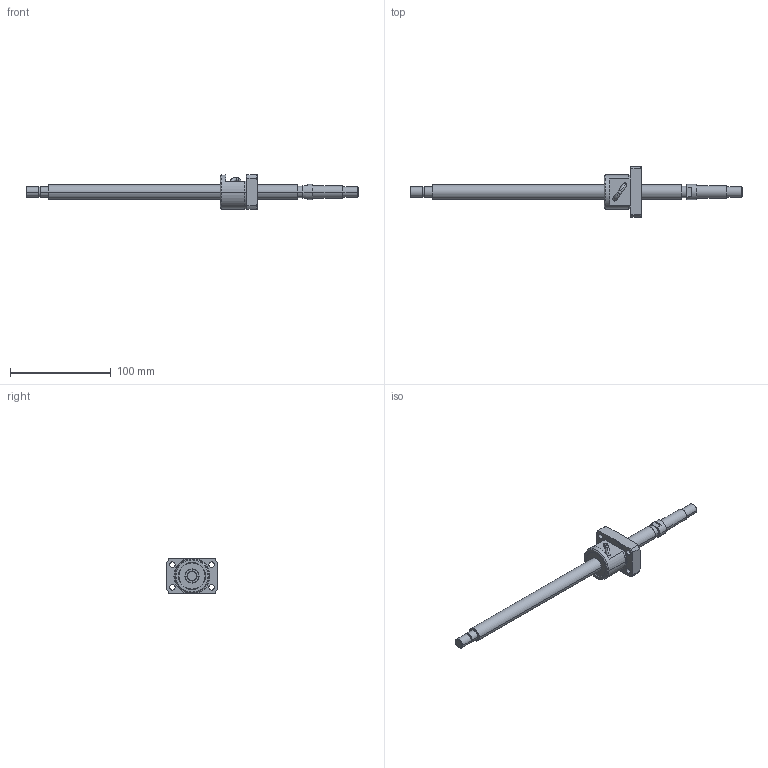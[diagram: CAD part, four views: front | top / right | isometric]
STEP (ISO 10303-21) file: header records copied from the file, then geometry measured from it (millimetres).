
FILE_DESCRIPTION (( 'STEP AP214' ), '1' );
FILE_NAME ('BS1404A-3D.STEP', '2014-03-05T14:45:40', ( '' ), ( '' ), 'SwSTEP 2.0', 'SolidWorks 2012', '' );
FILE_SCHEMA (( 'AUTOMOTIVE_DESIGN' ));
Length unit declared in the file: millimetre
Products named in the file (3): BS1404Aナット; BS1404AŽ²; BS1404A-3D
Assembly tree (2 placements, depth 2):
  BS1404A-3D
    BS1404AŽ²
    BS1404Aナット
Bounding box: 330 x 50 x 34 mm (x, y, z)
Volume: 77307.8 mm3; surface area: 25660.1 mm2
Topology: 2 solids, 2 shells, 152 faces, 395 edges, 256 vertices
Faces by surface type: cylinder 70, plane 42, cone 34, torus 4, bspline 2
Entity records: 6047 total; most frequent: CARTESIAN_POINT 2068, DIRECTION 816, ORIENTED_EDGE 786, EDGE_CURVE 393, AXIS2_PLACEMENT_3D 338, VERTEX_POINT 256, EDGE_LOOP 183, CIRCLE 183
